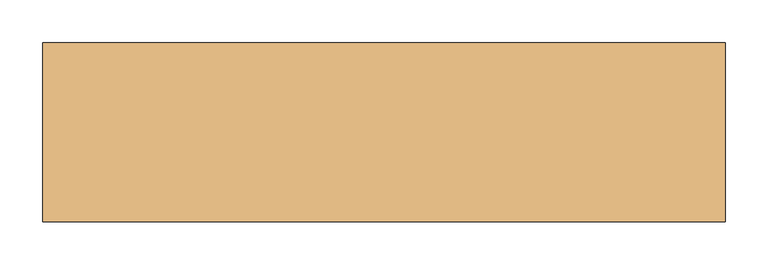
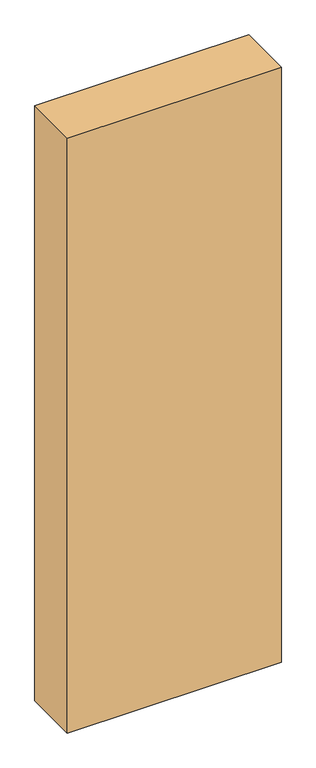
"""IFC4 building model written with IfcOpenShell, lengths in millimetres: door geometry, Dr_Проем-Простой : ДВ."""

from ifc_helpers import new_model, si_unit, frame, origin, place, context, project, spatial, polyline, outline, extrude, source, transform, mapped, element, save


def door_c0f961cf(model_context):
    return source(origin(), model_context, "Body", "SweptSolid", [
        extrude(outline(polyline([(605.3230163, 105.0), (605.3230163, -105.0), (-194.6769837, -105.0), (-194.6769837, 105.0), (605.3230163, 105.0)])), frame((0.0, 0.0, -250.0), z_axis=(0.0, 0.0, 1.0), x_axis=(1.0, 0.0, 0.0)), (0.0, 0.0, 1.0), 2350.0),
    ])


if __name__ == "__main__":
    model = new_model("IFC4")
    model_context = context("Model", 3, world=origin())
    ifc_project = project(units=[si_unit("LENGTHUNIT", "METRE", prefix="MILLI")], contexts=[model_context])
    site = spatial("IfcSite", under=ifc_project)
    building = spatial("IfcBuilding", under=site)
    placement = place(None, origin())
    door_shape = door_c0f961cf(model_context)
    element("IfcDoor", 1, ObjectType="Dr_Проем-Простой : ДВ", at=placement, inside=building, context=model_context, shape_type="MappedRepresentation", body=[
        mapped(door_shape, transform((0.0, 0.0, 0.0), x_axis=(1.0, 0.0, 0.0), y_axis=(0.0, 1.0, 0.0), z_axis=(0.0, 0.0, 1.0))),
    ])
    save(model, "model.ifc")
